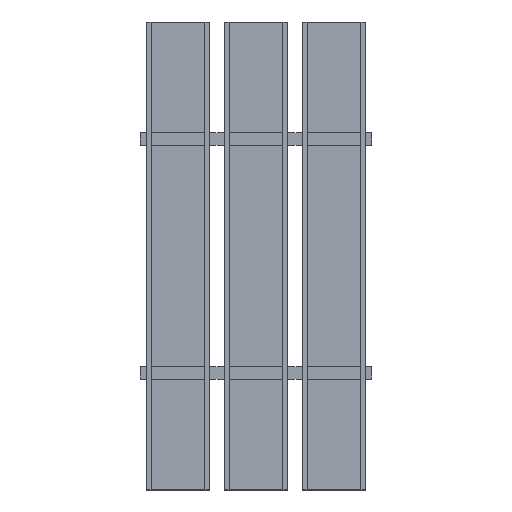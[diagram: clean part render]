
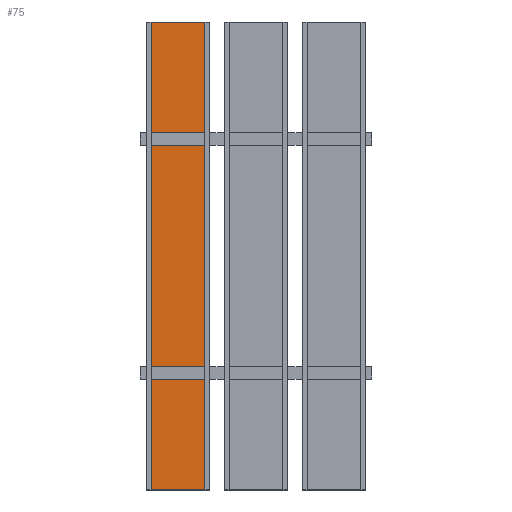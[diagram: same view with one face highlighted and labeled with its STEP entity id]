
A CAD part, top view. The second image highlights one B-rep face of the part: STEP entity #75.
In plain terms, the highlighted planar face has unit normal (0, 0, 1).
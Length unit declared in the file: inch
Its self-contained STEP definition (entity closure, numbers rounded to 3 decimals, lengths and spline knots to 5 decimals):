
#75=ADVANCED_FACE('',(#165),#1489,.T.);
#165=FACE_OUTER_BOUND('',#263,.T.);
#263=EDGE_LOOP('',(#516,#517,#518,#519));
#516=ORIENTED_EDGE('',*,*,#914,.F.);
#517=ORIENTED_EDGE('',*,*,#934,.T.);
#518=ORIENTED_EDGE('',*,*,#920,.F.);
#519=ORIENTED_EDGE('',*,*,#931,.F.);
#914=EDGE_CURVE('',#1366,#1367,#1154,.T.);
#920=EDGE_CURVE('',#1372,#1373,#1160,.T.);
#931=EDGE_CURVE('',#1367,#1372,#1171,.T.);
#934=EDGE_CURVE('',#1366,#1373,#1174,.T.);
#1154=B_SPLINE_CURVE_WITH_KNOTS('',1,(#2273,#2274),.UNSPECIFIED.,.F.,.F.,
(2,2),(0.,48.),.UNSPECIFIED.);
#1160=B_SPLINE_CURVE_WITH_KNOTS('',1,(#2285,#2286),.UNSPECIFIED.,.F.,.F.,
(2,2),(0.,48.),.UNSPECIFIED.);
#1171=B_SPLINE_CURVE_WITH_KNOTS('',1,(#2307,#2308),.UNSPECIFIED.,.F.,.F.,
(2,2),(0.,5.5),.UNSPECIFIED.);
#1174=B_SPLINE_CURVE_WITH_KNOTS('',1,(#2313,#2314),.UNSPECIFIED.,.F.,.F.,
(2,2),(0.,5.5),.UNSPECIFIED.);
#1366=VERTEX_POINT('',#1983);
#1367=VERTEX_POINT('',#1984);
#1372=VERTEX_POINT('',#1989);
#1373=VERTEX_POINT('',#1990);
#1489=PLANE('',#1670);
#1670=AXIS2_PLACEMENT_3D('',#1856,#1763,$);
#1763=DIRECTION('',(0.,0.,1.));
#1856=CARTESIAN_POINT('',(-12.69528,28.80472,-1.5));
#1983=CARTESIAN_POINT('',(-18.75,-24.,-1.5));
#1984=CARTESIAN_POINT('',(-18.75,24.,-1.5));
#1989=CARTESIAN_POINT('',(-13.25,24.,-1.5));
#1990=CARTESIAN_POINT('',(-13.25,-24.,-1.5));
#2273=CARTESIAN_POINT('',(-18.75,-24.,-1.5));
#2274=CARTESIAN_POINT('',(-18.75,24.,-1.5));
#2285=CARTESIAN_POINT('',(-13.25,24.,-1.5));
#2286=CARTESIAN_POINT('',(-13.25,-24.,-1.5));
#2307=CARTESIAN_POINT('',(-18.75,24.,-1.5));
#2308=CARTESIAN_POINT('',(-13.25,24.,-1.5));
#2313=CARTESIAN_POINT('',(-18.75,-24.,-1.5));
#2314=CARTESIAN_POINT('',(-13.25,-24.,-1.5));
